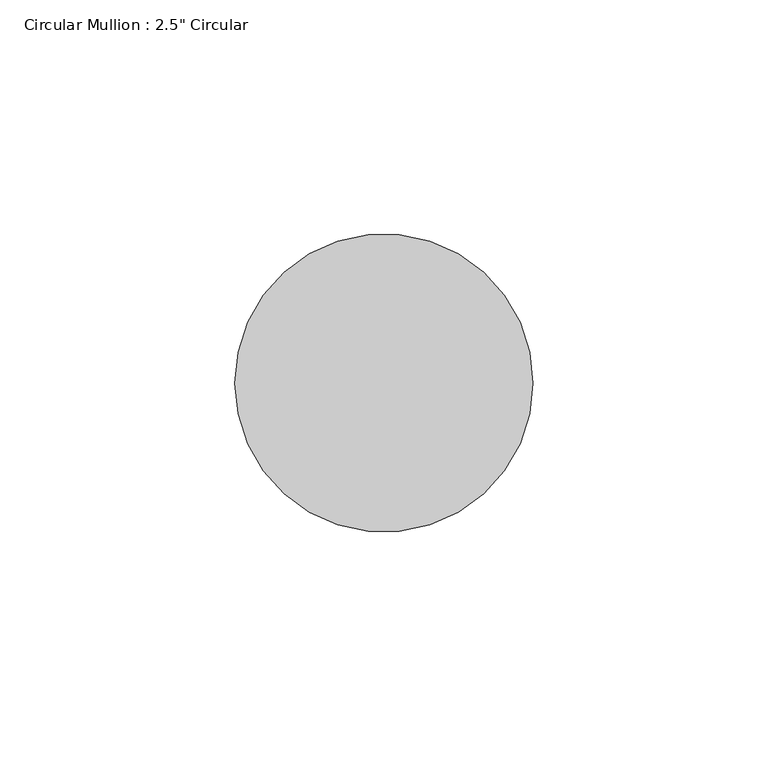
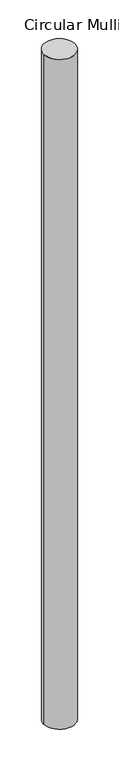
"""IFC4 building model written with IfcOpenShell, lengths in millimetres: member geometry."""

from ifc_helpers import new_model, si_unit, point, frame, origin, origin_2d, place, context, project, spatial, circle_curve, trimmed, segment, composite_curve, outline, extrude, source, transform, mapped, element, save


def member_9aeed09e(model_context):
    return source(origin(), model_context, "Body", "SweptSolid", [
        extrude(outline(composite_curve([segment(trimmed(circle_curve(origin_2d(), 31.75), [point((31.75, 0.0))], [point((-31.75, 0.0))], False, "CARTESIAN"), True, "CONTINUOUS"), segment(trimmed(circle_curve(origin_2d(), 31.75), [point((-31.75, 0.0))], [point((31.75, 0.0))], False, "CARTESIAN"), True, "CONTINUOUS")], self_intersect=False)), frame((0.0, 0.0, -1428.310451), z_axis=(0.0, 0.0, 1.0), x_axis=(1.0, 0.0, 0.0)), (0.0, 0.0, 1.0), 1428.310451),
    ])


if __name__ == "__main__":
    model = new_model("IFC4")
    model_context = context("Model", 3, world=origin())
    ifc_project = project(units=[si_unit("LENGTHUNIT", "METRE", prefix="MILLI")], contexts=[model_context])
    site = spatial("IfcSite", under=ifc_project)
    building = spatial("IfcBuilding", under=site)
    placement = place(None, origin())
    member_shape = member_9aeed09e(model_context)
    element("IfcMember", 1, ObjectType="Circular Mullion : 2.5\" Circular", at=placement, inside=building, context=model_context, shape_type="MappedRepresentation", body=[
        mapped(member_shape, transform((0.0, 0.0, 0.0), x_axis=(1.0, 0.0, 0.0), y_axis=(0.0, 1.0, 0.0), z_axis=(0.0, 0.0, 1.0))),
    ])
    save(model, "model.ifc")
